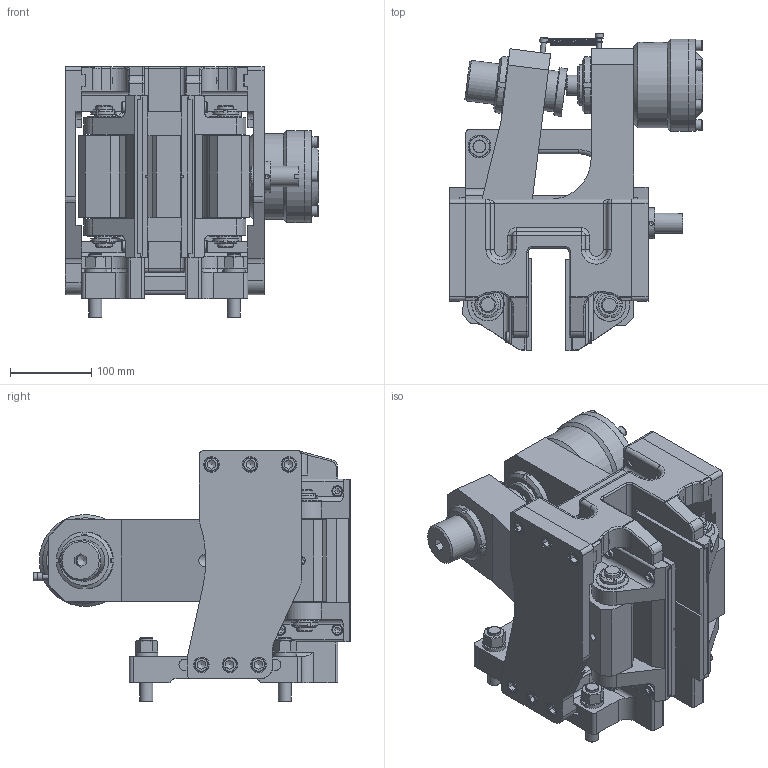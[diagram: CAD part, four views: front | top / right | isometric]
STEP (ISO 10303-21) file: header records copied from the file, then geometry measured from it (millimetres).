
FILE_DESCRIPTION(/* description */ ('','CAx-IF Rec.Pracs.---Representation and Presentation of Product Manufacturing Information (PMI)---4.0---2014-10-13'),/* implementation_level */ '2;1');
FILE_NAME(/* name */ 'X:\INVENTOR\DISEGNI\19_Pinze\STEP x Sito\OLEO-POSITIVE\19_26_070_06 POT070_40.stp',/* time_stamp */ '2018-10-26T08:36:57+02:00',/* author */ ('stefano'),/* organization */ (''),/* preprocessor_version */ 'ST-DEVELOPER v17',/* originating_system */ 'Autodesk Inventor 2018',/* authorisation */ '');
FILE_SCHEMA (('AP242_MANAGED_MODEL_BASED_3D_ENGINEERING_MIM_LF { 1 0 10303 442 1 1 4 }'));
Products named in the file (1): 19_26_070_06 POT070_40_Substitute_2
Bounding box: 311.1 x 390 x 308 mm (x, y, z)
Volume: 10193653.2 mm3; surface area: 951563.7 mm2
Topology: 1 solids, 1 shells, 1461 faces, 4026 edges, 2627 vertices
Faces by surface type: plane 768, cylinder 364, cone 174, torus 123, bspline 24, sphere 8
Full cylindrical faces by diameter (mm): 1.2 x2, 5.25 x4, 6 x2, 8 x9, 8.376 x1, 8.5 x8, 8.917 x1, 9.188 x1, 10 x2, 10.106 x8, 10.647 x2, 11.445 x1, 12 x13, 12.5 x12, 13 x22, 13.5 x8, 14 x1, 16 x8, 17 x4, 18 x14, 19 x12, 19.5 x1, 20 x12, 22 x6, 25 x5, 28 x1, 33.6 x1, 38 x1, 50 x3, 59 x1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
Entity records: 54986 total; most frequent: CARTESIAN_POINT 16731, ORIENTED_EDGE 7962, DIRECTION 7759, EDGE_CURVE 3981, AXIS2_PLACEMENT_3D 2930, VERTEX_POINT 2627, LINE 1899, VECTOR 1899
